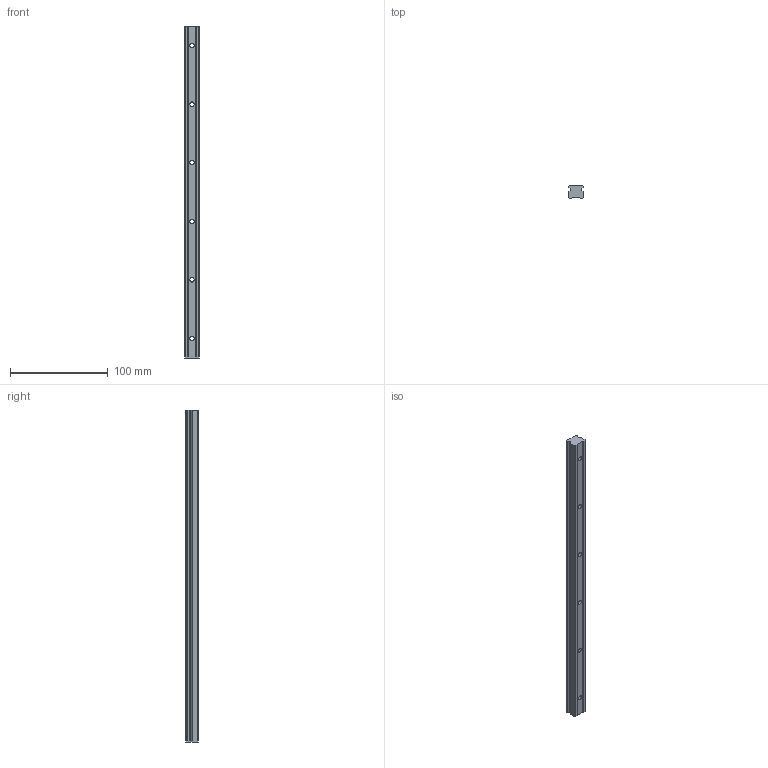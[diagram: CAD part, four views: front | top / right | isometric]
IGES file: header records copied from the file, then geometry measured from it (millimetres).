
Start section: SolidWorks IGES file using analytic representation for surfaces
Global section: file name: C:\Users\IanO\Desktop\L1016_v2\L1016.BL15_v2\L1016.BL15_v2_20190611_IGES\L1016.BL15-0340.igs; native system: SolidWorks 2017; preprocessor: SolidWorks 2017; author: IanO; date: 190612.122525; units: millimetre
Bounding box: 15 x 13 x 340 mm (x, y, z)
Surface area: 21134.2 mm2 (no closed solid volume)
Topology: 0 solids, 0 shells, 56 faces, 1016 edges, 1016 vertices
Faces by surface type: revolution 28, bspline 28
